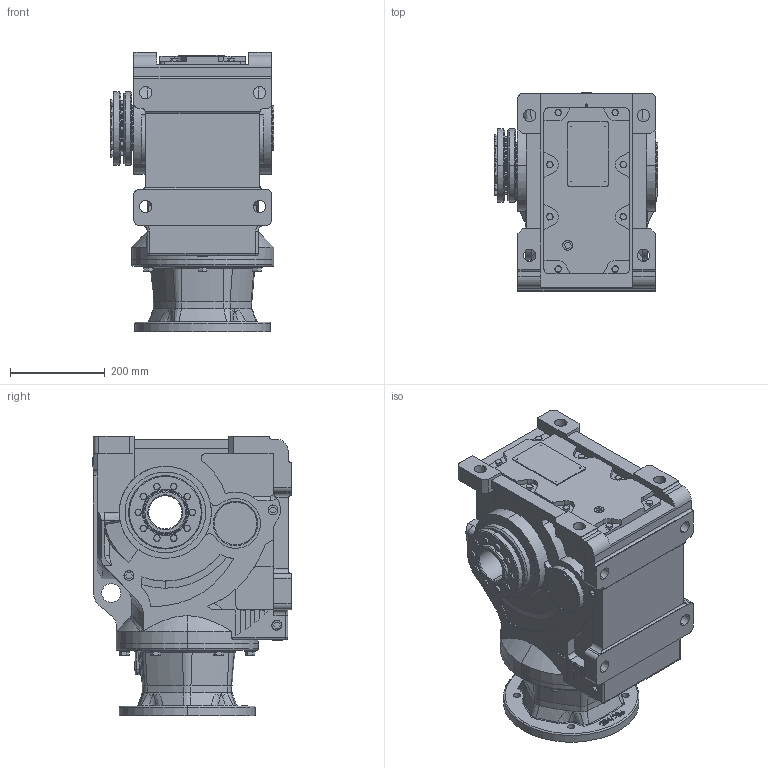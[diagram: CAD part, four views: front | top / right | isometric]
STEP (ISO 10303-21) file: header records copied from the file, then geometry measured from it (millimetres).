
FILE_DESCRIPTION (( 'STEP AP203' ), '1' );
FILE_NAME ('KHN97-284TC-B-POWER LOCK.STEP', '2020-11-25T03:06:24', ( 'Microsoft' ), ( 'Microsoft' ), 'SwSTEP 2.0', 'SolidWorks 2012', '' );
FILE_SCHEMA (( 'CONFIG_CONTROL_DESIGN' ));
Length unit declared in the file: millimetre
Products named in the file (1): KHN97-284TC-B-POWER LOCK
Bounding box: 345 x 417.5 x 588.5 mm (x, y, z)
Volume: 44215256.7 mm3; surface area: 1558675 mm2
Topology: 2 solids, 30 shells, 1825 faces, 4527 edges, 2857 vertices
Faces by surface type: plane 728, cylinder 520, cone 359, bspline 186, torus 30, sphere 2
Entity records: 65168 total; most frequent: CARTESIAN_POINT 22650, ORIENTED_EDGE 8938, DIRECTION 8582, EDGE_CURVE 4469, AXIS2_PLACEMENT_3D 3193, VERTEX_POINT 2857, LINE 2196, VECTOR 2196
